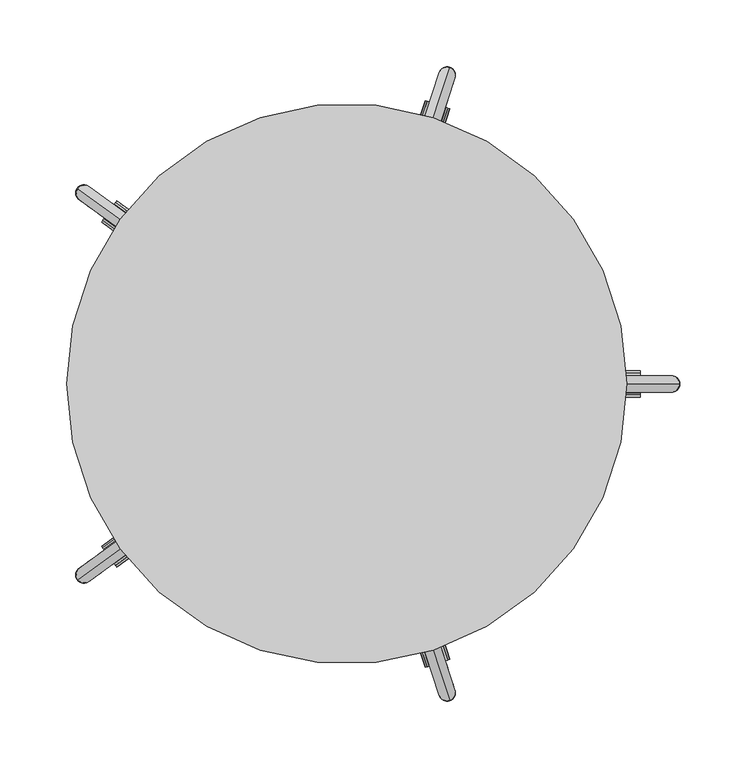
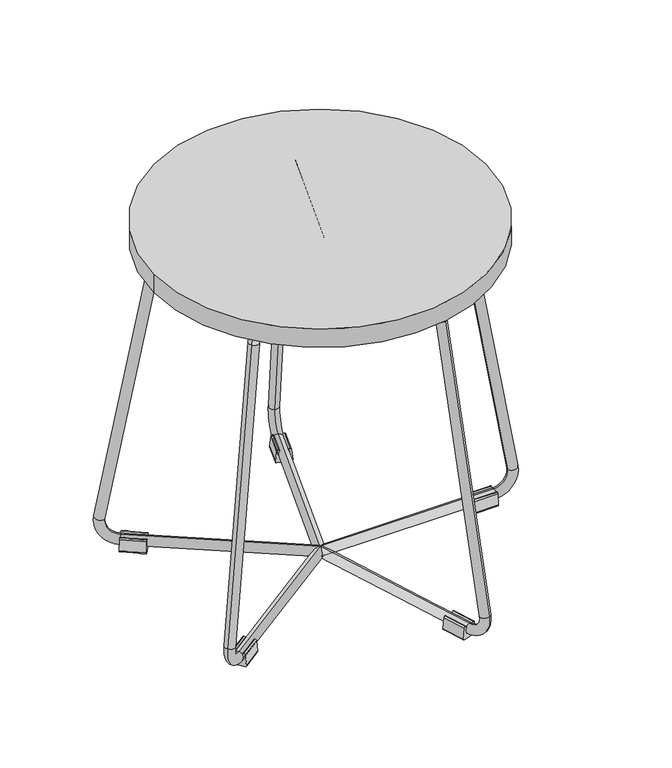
"""IFC4 building model written with IfcOpenShell, lengths in millimetres: furniture geometry, AsteriskR210 : AsteriskR210."""

from ifc_helpers import new_model, si_unit, point, frame, frame_2d, origin, origin_2d, place, context, project, spatial, polyline, circle_curve, ellipse_curve, trimmed, segment, composite_curve, outline, extrude, source, transform, mapped, element, save
from ifc_brep_helpers import plane_surface, cylinder_surface, revolved_surface, advanced_brep


def furniture_d91bc916(model_context):
    return source(origin(), model_context, "Body", "SolidModel", [
        extrude(outline(composite_curve([segment(polyline([(-81.7889391, -91.869927), (-97.218302, -70.6332309), (-81.0379621, -58.8775259), (-65.6085993, -80.114222)]), True, "CONTINUOUS"), segment(trimmed(circle_curve(frame_2d((-73.6987692, -85.9920745)), 10.0), [point((-65.6085993, -80.114222))], [point((-67.8209167, -94.0822444))], False, "CARTESIAN"), True, "CONTINUOUS"), segment(trimmed(circle_curve(frame_2d((-73.6987692, -85.9920745)), 10.0), [point((-67.8209167, -94.0822444))], [point((-81.7889391, -91.869927))], False, "CARTESIAN"), True, "CONTINUOUS")], self_intersect=False), holes=[composite_curve([segment(trimmed(circle_curve(frame_2d((-73.6987692, -85.9920745)), 2.5), [point((-71.6762267, -84.5226114))], [point((-75.7213117, -87.4615376))], True, "CARTESIAN"), True, "CONTINUOUS"), segment(trimmed(circle_curve(frame_2d((-73.6987692, -85.9920745)), 2.5), [point((-75.7213117, -87.4615376))], [point((-71.6762267, -84.5226114))], True, "CARTESIAN"), True, "CONTINUOUS")], self_intersect=False)]), frame((0.0, 0.0, 428.0), z_axis=(0.0, 0.0, 1.0), x_axis=(1.0, 0.0, 0.0)), (0.0, 0.0, 1.0), 2.0),
        extrude(outline(composite_curve([segment(trimmed(circle_curve(frame_2d((0.0, -1.5)), 1.5), [point((0.1752619, -0.0102741))], [point((1.5, -1.5))], False, "CARTESIAN"), True, "CONTINUOUS"), segment(trimmed(circle_curve(frame_2d((-0.121686, -1.5)), 1.621686), [point((1.5, -1.5))], [point((-0.7291803, -3.0036012))], False, "CARTESIAN"), True, "CONTINUOUS"), segment(trimmed(circle_curve(frame_2d((-4.1625955, -8.1661258)), 6.2), [point((-0.7291803, -3.0036012))], [point((-10.3625955, -8.1661258))], True, "CARTESIAN"), True, "CONTINUOUS"), segment(trimmed(circle_curve(frame_2d((-4.1625955, -8.1661258)), 6.2), [point((-10.3625955, -8.1661258))], [point((-0.7291803, -13.3286503))], True, "CARTESIAN"), True, "CONTINUOUS"), segment(trimmed(circle_curve(frame_2d((-0.121686, -14.8322513)), 1.621686), [point((-0.7291803, -13.3286503))], [point((1.5, -14.8322513))], False, "CARTESIAN"), True, "CONTINUOUS"), segment(trimmed(circle_curve(frame_2d((0.0, -14.8322513)), 1.5), [point((1.5, -14.8322513))], [point((0.1752619, -16.3219773))], False, "CARTESIAN"), True, "CONTINUOUS"), segment(polyline([(0.1752619, -16.3219773), (-13.8247381, -17.969036)]), True, "CONTINUOUS"), segment(trimmed(circle_curve(frame_2d((-14.0, -16.4793102)), 1.5), [point((-13.8247381, -17.969036))], [point((-15.5, -16.4793102))], False, "CARTESIAN"), True, "CONTINUOUS"), segment(polyline([(-15.5, -16.4793102), (-15.5, 0.1470588)]), True, "CONTINUOUS"), segment(trimmed(circle_curve(frame_2d((-14.0, 0.1470588)), 1.5), [point((-15.5, 0.1470588))], [point((-13.8247381, 1.6367847))], False, "CARTESIAN"), True, "CONTINUOUS"), segment(polyline([(-13.8247381, 1.6367847), (0.1752619, -0.0102741)]), True, "CONTINUOUS")], self_intersect=False)), frame((-173.3200732, -136.0182906, 15.5), z_axis=(0.809016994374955, 0.5877852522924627, 0.0), x_axis=(0.0, 0.0, 1.0)), (0.0, 0.0, 1.0), 30.0),
        advanced_brep(
        [(0.0005218, 0.0003791, 417.4625955), (0.0005218, 0.0003791, 429.8625955), (-125.9800017, -91.5298289, 417.4625955), (-125.9800017, -91.5298289, 429.8625955), (-149.6971094, -108.7613163, 405.2635865), (-139.8177044, -101.5835084, 403.1103491), (-191.8966377, -139.4210683, 38.0323479), (-201.7760427, -146.5988761, 40.1855853), (-177.9837302, -129.3127493, 5.1374045), (-177.9837302, -129.3127493, 17.5374045), (0.0005218, 0.0003791, 17.5374045), (0.0005218, 0.0003791, 5.1374045)],
        [
            (0, 1, circle_curve(frame((0.0005218, 0.0003791, 423.6625955), z_axis=(0.809016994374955, 0.5877852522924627, 0.0), x_axis=(0.0, 0.0, 1.0)), 6.2)),
            (1, 0, circle_curve(frame((0.0005218, 0.0003791, 423.6625955), z_axis=(0.809016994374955, 0.5877852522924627, 0.0), x_axis=(0.0, 0.0, 1.0)), 6.2)),
            (0, 2),
            (2, 3, circle_curve(frame((-125.9800017, -91.5298289, 423.6625955), z_axis=(0.809016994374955, 0.5877852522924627, 0.0), x_axis=(0.0, 0.0, 1.0)), 6.2)),
            (3, 1),
            (3, 2, circle_curve(frame((-125.9800017, -91.5298289, 423.6625955), z_axis=(0.809016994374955, 0.5877852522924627, 0.0), x_axis=(0.0, 0.0, 1.0)), 6.2)),
            (4, 3, circle_curve(frame((-125.9800017, -91.5298289, 400.0943923), z_axis=(-0.5877852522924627, 0.809016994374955, 0.0), x_axis=(0.0, 0.0, 1.0)), 29.7682033)),
            (2, 5, circle_curve(frame((-125.9800017, -91.5298289, 400.0943923), z_axis=(0.5877852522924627, -0.809016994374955, 0.0), x_axis=(0.0, 0.0, 1.0)), 17.3682033)),
            (5, 4, circle_curve(frame((-144.7574069, -105.1724124, 404.1869678), z_axis=(0.14048432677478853, 0.1020678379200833, 0.984807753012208), x_axis=(-0.7967262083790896, -0.578855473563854, 0.1736481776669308)), 6.2)),
            (4, 5, circle_curve(frame((-144.7574069, -105.1724124, 404.1869678), z_axis=(0.14048432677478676, 0.102067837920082, 0.9848077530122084), x_axis=(-0.7967262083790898, -0.5788554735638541, 0.1736481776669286)), 6.2)),
            (5, 6),
            (6, 7, circle_curve(frame((-196.8363402, -143.0099722, 39.1089666), z_axis=(0.1404843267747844, 0.10206783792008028, 0.9848077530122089), x_axis=(-0.7967262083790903, -0.5788554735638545, 0.17364817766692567)), 6.2)),
            (7, 4),
            (7, 6, circle_curve(frame((-196.8363402, -143.0099722, 39.1089666), z_axis=(0.1404843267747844, 0.10206783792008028, 0.9848077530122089), x_axis=(-0.7967262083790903, -0.5788554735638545, 0.17364817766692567)), 6.2)),
            (8, 7, circle_curve(frame((-177.9837302, -129.3127493, 35.0), z_axis=(-0.5877852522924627, 0.809016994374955, 0.0), x_axis=(-0.7967262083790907, -0.5788554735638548, 0.17364817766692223)), 29.8625955)),
            (6, 9, circle_curve(frame((-177.9837302, -129.3127493, 35.0), z_axis=(0.5877852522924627, -0.809016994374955, 0.0), x_axis=(-0.7967262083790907, -0.5788554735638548, 0.17364817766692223)), 17.4625955)),
            (9, 8, circle_curve(frame((-177.9837302, -129.3127493, 11.3374045), z_axis=(-0.809016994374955, -0.5877852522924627, 0.0), x_axis=(0.0, 0.0, -1.0)), 6.2)),
            (8, 9, circle_curve(frame((-177.9837302, -129.3127493, 11.3374045), z_axis=(-0.809016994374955, -0.5877852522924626, 0.0), x_axis=(0.0, 0.0, -1.0)), 6.2)),
            (10, 11, circle_curve(frame((0.0005218, 0.0003791, 11.3374045), z_axis=(0.809016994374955, 0.5877852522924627, 0.0), x_axis=(0.0, 0.0, -1.0)), 6.2)),
            (11, 10, circle_curve(frame((0.0005218, 0.0003791, 11.3374045), z_axis=(0.809016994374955, 0.5877852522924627, 0.0), x_axis=(0.0, 0.0, -1.0)), 6.2)),
            (9, 10),
            (11, 8),
        ],
        [
            plane_surface(frame((0.0005218, 0.0003791, 430.0), z_axis=(0.809016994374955, 0.5877852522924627, 0.0), x_axis=(-0.5877852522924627, 0.809016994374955, 0.0))),
            cylinder_surface(frame((0.0005218, 0.0003791, 423.6625955), z_axis=(0.809016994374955, 0.5877852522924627, 0.0), x_axis=(0.0, 0.0, 1.0)), 6.2),
            revolved_surface(trimmed(ellipse_curve(frame((-125.9800017, -91.5298289, 423.6625955), z_axis=(0.809016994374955, 0.5877852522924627, 0.0), x_axis=(0.0, 0.0, 1.0)), 6.2, 6.2), [point((-125.9800017, -91.5298289, 417.4625955))], [point((-125.9800017, -91.5298289, 429.8625955))], True, "CARTESIAN"), (-125.9800017, -91.5298289, 400.0943923), (0.5877852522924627, -0.809016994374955, 0.0)),
            revolved_surface(trimmed(ellipse_curve(frame((-125.9800017, -91.5298289, 423.6625955), z_axis=(0.809016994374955, 0.5877852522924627, 0.0), x_axis=(0.0, 0.0, 1.0)), 6.2, 6.2), [point((-125.9800017, -91.5298289, 429.8625955))], [point((-125.9800017, -91.5298289, 417.4625955))], True, "CARTESIAN"), (-125.9800017, -91.5298289, 400.0943923), (0.5877852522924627, -0.809016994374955, 0.0)),
            cylinder_surface(frame((-144.7574069, -105.1724124, 404.1869678), z_axis=(0.1404843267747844, 0.10206783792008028, 0.9848077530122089), x_axis=(-0.7967262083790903, -0.5788554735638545, 0.17364817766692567)), 6.2),
            revolved_surface(trimmed(ellipse_curve(frame((-196.8363402, -143.0099722, 39.1089666), z_axis=(0.1404843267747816, 0.10206783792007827, 0.9848077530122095), x_axis=(-0.7967262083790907, -0.5788554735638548, 0.17364817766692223)), 6.2, 6.2), [point((-191.8966377, -139.4210683, 38.0323479))], [point((-201.7760427, -146.5988761, 40.1855853))], True, "CARTESIAN"), (-177.9837302, -129.3127493, 35.0), (0.5877852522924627, -0.809016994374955, 0.0)),
            revolved_surface(trimmed(ellipse_curve(frame((-196.8363402, -143.0099722, 39.1089666), z_axis=(0.1404843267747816, 0.10206783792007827, 0.9848077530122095), x_axis=(-0.7967262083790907, -0.5788554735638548, 0.17364817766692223)), 6.2, 6.2), [point((-201.7760427, -146.5988761, 40.1855853))], [point((-191.8966377, -139.4210683, 38.0323479))], True, "CARTESIAN"), (-177.9837302, -129.3127493, 35.0), (0.5877852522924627, -0.809016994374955, 0.0)),
            plane_surface(frame((0.0005218, 0.0003791, 5.0), z_axis=(0.809016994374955, 0.5877852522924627, 0.0), x_axis=(-0.5877852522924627, 0.809016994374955, 0.0))),
            cylinder_surface(frame((-177.9837302, -129.3127493, 11.3374045), z_axis=(-0.809016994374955, -0.5877852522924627, 0.0), x_axis=(0.0, 0.0, -1.0)), 6.2),
        ],
        [
            (0, [[1, 2]]),
            (1, [[-1, 3, 4, 5]]),
            (1, [[-2, -5, 6, -3]]),
            (2, [[7, -4, 8, 9]]),
            (3, [[-8, -6, -7, 10]]),
            (4, [[-9, 11, 12, 13]]),
            (4, [[-10, -13, 14, -11]]),
            (5, [[15, -12, 16, 17]]),
            (6, [[-16, -14, -15, 18]]),
            (7, [[19, 20]]),
            (8, [[-17, 21, -20, 22]]),
            (8, [[-18, -22, -19, -21]]),
        ],
    ),
        extrude(outline(composite_curve([segment(polyline([(62.0991985, -106.1748964), (37.1339649, -114.2865925), (30.953625, -95.2654621), (55.9188586, -87.153766)]), True, "CONTINUOUS"), segment(trimmed(circle_curve(frame_2d((59.0090285, -96.6643312)), 10.0), [point((55.9188586, -87.153766))], [point((68.5195937, -93.5741613))], False, "CARTESIAN"), True, "CONTINUOUS"), segment(trimmed(circle_curve(frame_2d((59.0090285, -96.6643312)), 10.0), [point((68.5195937, -93.5741613))], [point((62.0991985, -106.1748964))], False, "CARTESIAN"), True, "CONTINUOUS")], self_intersect=False), holes=[composite_curve([segment(trimmed(circle_curve(frame_2d((59.0090285, -96.6643312)), 2.5), [point((58.236486, -94.2866899))], [point((59.781571, -99.0419725))], True, "CARTESIAN"), True, "CONTINUOUS"), segment(trimmed(circle_curve(frame_2d((59.0090285, -96.6643312)), 2.5), [point((59.781571, -99.0419725))], [point((58.236486, -94.2866899))], True, "CARTESIAN"), True, "CONTINUOUS")], self_intersect=False)]), frame((0.0, 0.0, 428.0), z_axis=(0.0, 0.0, 1.0), x_axis=(1.0, 0.0, 0.0)), (0.0, 0.0, 1.0), 2.0),
        extrude(outline(composite_curve([segment(trimmed(circle_curve(frame_2d((0.0, -1.4999999)), 1.5), [point((0.1752619, -0.0102741))], [point((1.5, -1.4999999))], False, "CARTESIAN"), True, "CONTINUOUS"), segment(trimmed(circle_curve(frame_2d((-0.121686, -1.4999999)), 1.621686), [point((1.5, -1.4999999))], [point((-0.7291803, -3.003601))], False, "CARTESIAN"), True, "CONTINUOUS"), segment(trimmed(circle_curve(frame_2d((-4.1625955, -8.1661256)), 6.2), [point((-0.7291803, -3.003601))], [point((-10.3625955, -8.1661256))], True, "CARTESIAN"), True, "CONTINUOUS"), segment(trimmed(circle_curve(frame_2d((-4.1625955, -8.1661256)), 6.2), [point((-10.3625955, -8.1661256))], [point((-0.7291803, -13.3286502))], True, "CARTESIAN"), True, "CONTINUOUS"), segment(trimmed(circle_curve(frame_2d((-0.121686, -14.8322512)), 1.621686), [point((-0.7291803, -13.3286502))], [point((1.5, -14.8322512))], False, "CARTESIAN"), True, "CONTINUOUS"), segment(trimmed(circle_curve(frame_2d((0.0, -14.8322512)), 1.5), [point((1.5, -14.8322512))], [point((0.1752619, -16.3219771))], False, "CARTESIAN"), True, "CONTINUOUS"), segment(polyline([(0.1752619, -16.3219771), (-13.8247381, -17.9690359)]), True, "CONTINUOUS"), segment(trimmed(circle_curve(frame_2d((-14.0, -16.4793101)), 1.5), [point((-13.8247381, -17.9690359))], [point((-15.5, -16.4793101))], False, "CARTESIAN"), True, "CONTINUOUS"), segment(polyline([(-15.5, -16.4793101), (-15.5, 0.1470589)]), True, "CONTINUOUS"), segment(trimmed(circle_curve(frame_2d((-14.0, 0.1470589)), 1.5), [point((-15.5, 0.1470589))], [point((-13.8247381, 1.6367847))], False, "CARTESIAN"), True, "CONTINUOUS"), segment(polyline([(-13.8247381, 1.6367847), (0.1752619, -0.0102741)]), True, "CONTINUOUS")], self_intersect=False)), frame((75.8021113, -206.8687725, 15.5), z_axis=(-0.3090169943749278, 0.95105651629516, 0.0), x_axis=(0.0, 0.0, 1.0)), (0.0, 0.0, 1.0), 30.0),
        advanced_brep(
        [(-0.0003214, 0.0009893, 417.4625955), (-0.0003214, 0.0009893, 429.8625955), (48.1199566, -148.0979983, 417.4625955), (48.1199566, -148.0979983, 429.8625955), (57.1790856, -175.9791306, 405.2635865), (53.4054887, -164.3651935, 403.1103491), (73.2978711, -225.5876513, 38.0323479), (77.071468, -237.2015884, 40.1855853), (67.9836133, -209.2320476, 5.1374045), (67.9836133, -209.2320476, 17.5374045), (-0.0003214, 0.0009893, 17.5374045), (-0.0003214, 0.0009893, 5.1374045)],
        [
            (0, 1, circle_curve(frame((-0.0003214, 0.0009893, 423.6625955), z_axis=(-0.3090169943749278, 0.95105651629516, 0.0), x_axis=(0.0, 0.0, 1.0)), 6.2)),
            (1, 0, circle_curve(frame((-0.0003214, 0.0009893, 423.6625955), z_axis=(-0.3090169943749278, 0.95105651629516, 0.0), x_axis=(0.0, 0.0, 1.0)), 6.2)),
            (0, 2),
            (2, 3, circle_curve(frame((48.1199566, -148.0979983, 423.6625955), z_axis=(-0.3090169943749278, 0.95105651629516, 0.0), x_axis=(0.0, 0.0, 1.0)), 6.2)),
            (3, 1),
            (3, 2, circle_curve(frame((48.1199566, -148.0979983, 423.6625955), z_axis=(-0.3090169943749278, 0.95105651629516, 0.0), x_axis=(0.0, 0.0, 1.0)), 6.2)),
            (4, 3, circle_curve(frame((48.1199566, -148.0979983, 400.0943923), z_axis=(-0.95105651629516, -0.3090169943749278, 0.0), x_axis=(0.0, 0.0, 1.0)), 29.7682033)),
            (2, 5, circle_curve(frame((48.1199566, -148.0979983, 400.0943923), z_axis=(0.95105651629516, 0.3090169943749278, 0.0), x_axis=(0.0, 0.0, 1.0)), 17.3682033)),
            (5, 4, circle_curve(frame((55.2922872, -170.172162, 404.1869678), z_axis=(-0.05366023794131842, 0.1651492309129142, 0.984807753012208), x_axis=(0.30432233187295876, -0.9366078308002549, 0.1736481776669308)), 6.2)),
            (4, 5, circle_curve(frame((55.2922872, -170.172162, 404.1869678), z_axis=(-0.05366023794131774, 0.16514923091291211, 0.9848077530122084), x_axis=(0.3043223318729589, -0.9366078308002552, 0.1736481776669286)), 6.2)),
            (5, 6),
            (6, 7, circle_curve(frame((75.1846696, -231.3946198, 39.1089666), z_axis=(-0.05366023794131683, 0.1651492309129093, 0.9848077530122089), x_axis=(0.30432233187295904, -0.9366078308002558, 0.17364817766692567)), 6.2)),
            (7, 4),
            (7, 6, circle_curve(frame((75.1846696, -231.3946198, 39.1089666), z_axis=(-0.05366023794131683, 0.1651492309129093, 0.9848077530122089), x_axis=(0.30432233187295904, -0.9366078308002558, 0.17364817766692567)), 6.2)),
            (8, 7, circle_curve(frame((67.9836133, -209.2320476, 35.0), z_axis=(-0.95105651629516, -0.3090169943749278, 0.0), x_axis=(0.3043223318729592, -0.9366078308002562, 0.17364817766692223)), 29.8625955)),
            (6, 9, circle_curve(frame((67.9836133, -209.2320476, 35.0), z_axis=(0.95105651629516, 0.3090169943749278, 0.0), x_axis=(0.3043223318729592, -0.9366078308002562, 0.17364817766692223)), 17.4625955)),
            (9, 8, circle_curve(frame((67.9836133, -209.2320476, 11.3374045), z_axis=(0.3090169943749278, -0.9510565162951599, 0.0), x_axis=(0.0, 0.0, -1.0)), 6.2)),
            (8, 9, circle_curve(frame((67.9836133, -209.2320476, 11.3374045), z_axis=(0.3090169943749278, -0.9510565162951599, 0.0), x_axis=(0.0, 0.0, -1.0)), 6.2)),
            (10, 11, circle_curve(frame((-0.0003214, 0.0009893, 11.3374045), z_axis=(-0.3090169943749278, 0.95105651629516, 0.0), x_axis=(0.0, 0.0, -1.0)), 6.2)),
            (11, 10, circle_curve(frame((-0.0003214, 0.0009893, 11.3374045), z_axis=(-0.3090169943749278, 0.95105651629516, 0.0), x_axis=(0.0, 0.0, -1.0)), 6.2)),
            (9, 10),
            (11, 8),
        ],
        [
            plane_surface(frame((-0.0003214, 0.0009893, 430.0), z_axis=(-0.3090169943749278, 0.95105651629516, 0.0), x_axis=(-0.95105651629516, -0.3090169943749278, 0.0))),
            cylinder_surface(frame((-0.0003214, 0.0009893, 423.6625955), z_axis=(-0.3090169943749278, 0.95105651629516, 0.0), x_axis=(0.0, 0.0, 1.0)), 6.2),
            revolved_surface(trimmed(ellipse_curve(frame((48.1199566, -148.0979983, 423.6625955), z_axis=(-0.3090169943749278, 0.95105651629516, 0.0), x_axis=(0.0, 0.0, 1.0)), 6.2, 6.2), [point((48.1199566, -148.0979983, 417.4625955))], [point((48.1199566, -148.0979983, 429.8625955))], True, "CARTESIAN"), (48.1199566, -148.0979983, 400.0943923), (0.95105651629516, 0.3090169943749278, 0.0)),
            revolved_surface(trimmed(ellipse_curve(frame((48.1199566, -148.0979983, 423.6625955), z_axis=(-0.3090169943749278, 0.95105651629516, 0.0), x_axis=(0.0, 0.0, 1.0)), 6.2, 6.2), [point((48.1199566, -148.0979983, 429.8625955))], [point((48.1199566, -148.0979983, 417.4625955))], True, "CARTESIAN"), (48.1199566, -148.0979983, 400.0943923), (0.95105651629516, 0.3090169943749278, 0.0)),
            cylinder_surface(frame((55.2922872, -170.172162, 404.1869678), z_axis=(-0.05366023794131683, 0.1651492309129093, 0.9848077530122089), x_axis=(0.30432233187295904, -0.9366078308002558, 0.17364817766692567)), 6.2),
            revolved_surface(trimmed(ellipse_curve(frame((75.1846696, -231.3946198, 39.1089666), z_axis=(-0.05366023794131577, 0.16514923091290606, 0.9848077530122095), x_axis=(0.3043223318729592, -0.9366078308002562, 0.17364817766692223)), 6.2, 6.2), [point((73.2978711, -225.5876513, 38.0323479))], [point((77.071468, -237.2015884, 40.1855853))], True, "CARTESIAN"), (67.9836133, -209.2320476, 35.0), (0.95105651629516, 0.3090169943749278, 0.0)),
            revolved_surface(trimmed(ellipse_curve(frame((75.1846696, -231.3946198, 39.1089666), z_axis=(-0.05366023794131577, 0.16514923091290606, 0.9848077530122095), x_axis=(0.3043223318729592, -0.9366078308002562, 0.17364817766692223)), 6.2, 6.2), [point((77.071468, -237.2015884, 40.1855853))], [point((73.2978711, -225.5876513, 38.0323479))], True, "CARTESIAN"), (67.9836133, -209.2320476, 35.0), (0.95105651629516, 0.3090169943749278, 0.0)),
            plane_surface(frame((-0.0003214, 0.0009893, 5.0), z_axis=(-0.3090169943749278, 0.95105651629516, 0.0), x_axis=(-0.95105651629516, -0.3090169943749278, 0.0))),
            cylinder_surface(frame((67.9836133, -209.2320476, 11.3374045), z_axis=(0.3090169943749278, -0.95105651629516, 0.0), x_axis=(0.0, 0.0, -1.0)), 6.2),
        ],
        [
            (0, [[1, 2]]),
            (1, [[-1, 3, 4, 5]]),
            (1, [[-2, -5, 6, -3]]),
            (2, [[7, -4, 8, 9]]),
            (3, [[-8, -6, -7, 10]]),
            (4, [[-9, 11, 12, 13]]),
            (4, [[-10, -13, 14, -11]]),
            (5, [[15, -12, 16, 17]]),
            (6, [[-16, -14, -15, 18]]),
            (7, [[19, 20]]),
            (8, [[-17, 21, -20, 22]]),
            (8, [[-18, -22, -19, -21]]),
        ],
    ),
        extrude(outline(composite_curve([segment(polyline([(-112.6476649, 49.3965348), (-97.218302, 70.6332309), (-81.0379621, 58.8775259), (-96.467325, 37.6408298)]), True, "CONTINUOUS"), segment(trimmed(circle_curve(frame_2d((-104.557495, 43.5186823)), 10.0), [point((-96.467325, 37.6408298))], [point((-110.4353475, 35.4285123))], False, "CARTESIAN"), True, "CONTINUOUS"), segment(trimmed(circle_curve(frame_2d((-104.557495, 43.5186823)), 10.0), [point((-110.4353475, 35.4285123))], [point((-112.6476649, 49.3965348))], False, "CARTESIAN"), True, "CONTINUOUS")], self_intersect=False), holes=[composite_curve([segment(trimmed(circle_curve(frame_2d((-104.557495, 43.5186823)), 2.5), [point((-102.5349525, 42.0492192))], [point((-106.5800374, 44.9881454))], True, "CARTESIAN"), True, "CONTINUOUS"), segment(trimmed(circle_curve(frame_2d((-104.557495, 43.5186823)), 2.5), [point((-106.5800374, 44.9881454))], [point((-102.5349525, 42.0492192))], True, "CARTESIAN"), True, "CONTINUOUS")], self_intersect=False)]), frame((0.0, 0.0, 428.0), z_axis=(0.0, 0.0, 1.0), x_axis=(1.0, 0.0, 0.0)), (0.0, 0.0, 1.0), 2.0),
        extrude(outline(composite_curve([segment(polyline([(-0.1752619, -0.010274), (13.8247381, 1.6367848)]), True, "CONTINUOUS"), segment(trimmed(circle_curve(frame_2d((14.0, 0.1470589)), 1.5), [point((13.8247381, 1.6367848))], [point((15.5, 0.1470589))], False, "CARTESIAN"), True, "CONTINUOUS"), segment(polyline([(15.5, 0.1470589), (15.5, -16.4793101)]), True, "CONTINUOUS"), segment(trimmed(circle_curve(frame_2d((14.0, -16.4793101)), 1.5), [point((15.5, -16.4793101))], [point((13.8247381, -17.969036))], False, "CARTESIAN"), True, "CONTINUOUS"), segment(polyline([(13.8247381, -17.969036), (-0.1752619, -16.3219771)]), True, "CONTINUOUS"), segment(trimmed(circle_curve(frame_2d((0.0, -14.8322512)), 1.5), [point((-0.1752619, -16.3219771))], [point((-1.5, -14.8322512))], False, "CARTESIAN"), True, "CONTINUOUS"), segment(trimmed(circle_curve(frame_2d((0.121686, -14.8322512)), 1.621686), [point((-1.5, -14.8322512))], [point((0.7291803, -13.3286502))], False, "CARTESIAN"), True, "CONTINUOUS"), segment(trimmed(circle_curve(frame_2d((4.1625955, -8.1661256)), 6.2), [point((0.7291803, -13.3286502))], [point((10.3625955, -8.1661256))], True, "CARTESIAN"), True, "CONTINUOUS"), segment(trimmed(circle_curve(frame_2d((4.1625955, -8.1661256)), 6.2), [point((10.3625955, -8.1661256))], [point((0.7291803, -3.0036011))], True, "CARTESIAN"), True, "CONTINUOUS"), segment(trimmed(circle_curve(frame_2d((0.121686, -1.5)), 1.621686), [point((0.7291803, -3.0036011))], [point((-1.5, -1.5))], False, "CARTESIAN"), True, "CONTINUOUS"), segment(trimmed(circle_curve(frame_2d((0.0, -1.5)), 1.5), [point((-1.5, -1.5))], [point((-0.1752619, -0.010274))], False, "CARTESIAN"), True, "CONTINUOUS")], self_intersect=False)), frame((-158.6494198, 105.1716642, 15.5), z_axis=(-0.8090169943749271, 0.587785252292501, 0.0), x_axis=(0.0, 0.0, -1.0)), (0.0, 0.0, 1.0), 30.0),
        advanced_brep(
        [(0.0005218, -0.0003791, 417.4625955), (0.0005218, -0.0003791, 429.8625955), (-125.9800017, 91.5298289, 417.4625955), (-125.9800017, 91.5298289, 429.8625955), (-149.6971094, 108.7613163, 405.2635865), (-139.8177044, 101.5835084, 403.1103491), (-191.8966377, 139.4210683, 38.0323479), (-201.7760427, 146.5988761, 40.1855853), (-177.9837302, 129.3127493, 5.1374045), (-177.9837302, 129.3127493, 17.5374045), (0.0005218, -0.0003791, 17.5374045), (0.0005218, -0.0003791, 5.1374045)],
        [
            (0, 1, circle_curve(frame((0.0005218, -0.0003791, 423.6625955), z_axis=(0.8090169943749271, -0.587785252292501, 0.0), x_axis=(0.0, 0.0, 1.0)), 6.2)),
            (1, 0, circle_curve(frame((0.0005218, -0.0003791, 423.6625955), z_axis=(0.8090169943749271, -0.587785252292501, 0.0), x_axis=(0.0, 0.0, 1.0)), 6.2)),
            (0, 2),
            (2, 3, circle_curve(frame((-125.9800017, 91.5298289, 423.6625955), z_axis=(0.8090169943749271, -0.587785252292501, 0.0), x_axis=(0.0, 0.0, 1.0)), 6.2)),
            (3, 1),
            (3, 2, circle_curve(frame((-125.9800017, 91.5298289, 423.6625955), z_axis=(0.8090169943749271, -0.587785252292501, 0.0), x_axis=(0.0, 0.0, 1.0)), 6.2)),
            (4, 3, circle_curve(frame((-125.9800017, 91.5298289, 400.0943923), z_axis=(0.587785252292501, 0.8090169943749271, 0.0), x_axis=(0.0, 0.0, 1.0)), 29.7682033)),
            (2, 5, circle_curve(frame((-125.9800017, 91.5298289, 400.0943923), z_axis=(-0.587785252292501, -0.8090169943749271, 0.0), x_axis=(0.0, 0.0, 1.0)), 17.3682033)),
            (5, 4, circle_curve(frame((-144.7574069, 105.1724124, 404.1869678), z_axis=(0.1404843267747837, -0.10206783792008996, 0.984807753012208), x_axis=(-0.7967262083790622, 0.5788554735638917, 0.1736481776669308)), 6.2)),
            (4, 5, circle_curve(frame((-144.7574069, 105.1724124, 404.1869678), z_axis=(0.14048432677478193, -0.10206783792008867, 0.9848077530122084), x_axis=(-0.7967262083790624, 0.5788554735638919, 0.1736481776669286)), 6.2)),
            (5, 6),
            (6, 7, circle_curve(frame((-196.8363402, 143.0099722, 39.1089666), z_axis=(0.14048432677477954, -0.10206783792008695, 0.9848077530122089), x_axis=(-0.7967262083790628, 0.5788554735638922, 0.17364817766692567)), 6.2)),
            (7, 4),
            (7, 6, circle_curve(frame((-196.8363402, 143.0099722, 39.1089666), z_axis=(0.14048432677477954, -0.10206783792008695, 0.9848077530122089), x_axis=(-0.7967262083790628, 0.5788554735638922, 0.17364817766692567)), 6.2)),
            (8, 7, circle_curve(frame((-177.9837302, 129.3127493, 35.0), z_axis=(0.587785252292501, 0.8090169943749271, 0.0), x_axis=(-0.7967262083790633, 0.5788554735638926, 0.17364817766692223)), 29.8625955)),
            (6, 9, circle_curve(frame((-177.9837302, 129.3127493, 35.0), z_axis=(-0.587785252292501, -0.8090169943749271, 0.0), x_axis=(-0.7967262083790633, 0.5788554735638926, 0.17364817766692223)), 17.4625955)),
            (9, 8, circle_curve(frame((-177.9837302, 129.3127493, 11.3374045), z_axis=(-0.8090169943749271, 0.587785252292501, 0.0), x_axis=(0.0, 0.0, -1.0)), 6.2)),
            (8, 9, circle_curve(frame((-177.9837302, 129.3127493, 11.3374045), z_axis=(-0.809016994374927, 0.587785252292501, 0.0), x_axis=(0.0, 0.0, -1.0)), 6.2)),
            (10, 11, circle_curve(frame((0.0005218, -0.0003791, 11.3374045), z_axis=(0.8090169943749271, -0.587785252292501, 0.0), x_axis=(0.0, 0.0, -1.0)), 6.2)),
            (11, 10, circle_curve(frame((0.0005218, -0.0003791, 11.3374045), z_axis=(0.8090169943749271, -0.587785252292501, 0.0), x_axis=(0.0, 0.0, -1.0)), 6.2)),
            (9, 10),
            (11, 8),
        ],
        [
            plane_surface(frame((0.0005218, -0.0003791, 430.0), z_axis=(0.8090169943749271, -0.587785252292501, 0.0), x_axis=(0.587785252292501, 0.8090169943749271, 0.0))),
            cylinder_surface(frame((0.0005218, -0.0003791, 423.6625955), z_axis=(0.8090169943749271, -0.587785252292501, 0.0), x_axis=(0.0, 0.0, 1.0)), 6.2),
            revolved_surface(trimmed(ellipse_curve(frame((-125.9800017, 91.5298289, 423.6625955), z_axis=(0.8090169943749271, -0.587785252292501, 0.0), x_axis=(0.0, 0.0, 1.0)), 6.2, 6.2), [point((-125.9800017, 91.5298289, 417.4625955))], [point((-125.9800017, 91.5298289, 429.8625955))], True, "CARTESIAN"), (-125.9800017, 91.5298289, 400.0943923), (-0.587785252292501, -0.8090169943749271, 0.0)),
            revolved_surface(trimmed(ellipse_curve(frame((-125.9800017, 91.5298289, 423.6625955), z_axis=(0.8090169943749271, -0.587785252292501, 0.0), x_axis=(0.0, 0.0, 1.0)), 6.2, 6.2), [point((-125.9800017, 91.5298289, 429.8625955))], [point((-125.9800017, 91.5298289, 417.4625955))], True, "CARTESIAN"), (-125.9800017, 91.5298289, 400.0943923), (-0.587785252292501, -0.8090169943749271, 0.0)),
            cylinder_surface(frame((-144.7574069, 105.1724124, 404.1869678), z_axis=(0.14048432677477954, -0.10206783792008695, 0.9848077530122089), x_axis=(-0.7967262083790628, 0.5788554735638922, 0.17364817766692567)), 6.2),
            revolved_surface(trimmed(ellipse_curve(frame((-196.8363402, 143.0099722, 39.1089666), z_axis=(0.14048432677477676, -0.10206783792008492, 0.9848077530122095), x_axis=(-0.7967262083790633, 0.5788554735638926, 0.17364817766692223)), 6.2, 6.2), [point((-191.8966377, 139.4210683, 38.0323479))], [point((-201.7760427, 146.5988761, 40.1855853))], True, "CARTESIAN"), (-177.9837302, 129.3127493, 35.0), (-0.587785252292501, -0.8090169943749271, 0.0)),
            revolved_surface(trimmed(ellipse_curve(frame((-196.8363402, 143.0099722, 39.1089666), z_axis=(0.14048432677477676, -0.10206783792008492, 0.9848077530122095), x_axis=(-0.7967262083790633, 0.5788554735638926, 0.17364817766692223)), 6.2, 6.2), [point((-201.7760427, 146.5988761, 40.1855853))], [point((-191.8966377, 139.4210683, 38.0323479))], True, "CARTESIAN"), (-177.9837302, 129.3127493, 35.0), (-0.587785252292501, -0.8090169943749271, 0.0)),
            plane_surface(frame((0.0005218, -0.0003791, 5.0), z_axis=(0.8090169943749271, -0.587785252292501, 0.0), x_axis=(0.587785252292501, 0.8090169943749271, 0.0))),
            cylinder_surface(frame((-177.9837302, 129.3127493, 11.3374045), z_axis=(-0.8090169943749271, 0.587785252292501, 0.0), x_axis=(0.0, 0.0, -1.0)), 6.2),
        ],
        [
            (0, [[1, 2]]),
            (1, [[-1, 3, 4, 5]]),
            (1, [[-2, -5, 6, -3]]),
            (2, [[7, -4, 8, 9]]),
            (3, [[-8, -6, -7, 10]]),
            (4, [[-9, 11, 12, 13]]),
            (4, [[-10, -13, 14, -11]]),
            (5, [[15, -12, 16, 17]]),
            (6, [[-16, -14, -15, 18]]),
            (7, [[19, 20]]),
            (8, [[-17, 21, -20, 22]]),
            (8, [[-18, -22, -19, -21]]),
        ],
    ),
        extrude(outline(composite_curve([segment(polyline([(12.1687314, 122.3982886), (37.1339649, 114.2865925), (30.953625, 95.2654621), (5.9883915, 103.3771582)]), True, "CONTINUOUS"), segment(trimmed(circle_curve(frame_2d((9.0785614, 112.8877234)), 10.0), [point((5.9883915, 103.3771582))], [point((-0.4320038, 115.9778934))], False, "CARTESIAN"), True, "CONTINUOUS"), segment(trimmed(circle_curve(frame_2d((9.0785614, 112.8877234)), 10.0), [point((-0.4320038, 115.9778934))], [point((12.1687314, 122.3982886))], False, "CARTESIAN"), True, "CONTINUOUS")], self_intersect=False), holes=[composite_curve([segment(trimmed(circle_curve(frame_2d((9.0785614, 112.8877234)), 2.5), [point((8.3060189, 110.5100821))], [point((9.8511039, 115.2653647))], True, "CARTESIAN"), True, "CONTINUOUS"), segment(trimmed(circle_curve(frame_2d((9.0785614, 112.8877234)), 2.5), [point((9.8511039, 115.2653647))], [point((8.3060189, 110.5100821))], True, "CARTESIAN"), True, "CONTINUOUS")], self_intersect=False)]), frame((0.0, 0.0, 428.0), z_axis=(0.0, 0.0, 1.0), x_axis=(1.0, 0.0, 0.0)), (0.0, 0.0, 1.0), 2.0),
        extrude(outline(composite_curve([segment(polyline([(-0.1752619, -0.0102742), (13.8247381, 1.6367847)]), True, "CONTINUOUS"), segment(trimmed(circle_curve(frame_2d((14.0, 0.1470588)), 1.5), [point((13.8247381, 1.6367847))], [point((15.5, 0.1470588))], False, "CARTESIAN"), True, "CONTINUOUS"), segment(polyline([(15.5, 0.1470588), (15.5, -16.4793102)]), True, "CONTINUOUS"), segment(trimmed(circle_curve(frame_2d((14.0, -16.4793102)), 1.5), [point((15.5, -16.4793102))], [point((13.8247381, -17.969036))], False, "CARTESIAN"), True, "CONTINUOUS"), segment(polyline([(13.8247381, -17.969036), (-0.1752619, -16.3219772)]), True, "CONTINUOUS"), segment(trimmed(circle_curve(frame_2d((0.0, -14.8322512)), 1.5), [point((-0.1752619, -16.3219772))], [point((-1.5, -14.8322512))], False, "CARTESIAN"), True, "CONTINUOUS"), segment(trimmed(circle_curve(frame_2d((0.121686, -14.8322512)), 1.621686), [point((-1.5, -14.8322512))], [point((0.7291803, -13.3286502))], False, "CARTESIAN"), True, "CONTINUOUS"), segment(trimmed(circle_curve(frame_2d((4.1625955, -8.1661256)), 6.2), [point((0.7291803, -13.3286502))], [point((10.3625955, -8.1661256))], True, "CARTESIAN"), True, "CONTINUOUS"), segment(trimmed(circle_curve(frame_2d((4.1625955, -8.1661256)), 6.2), [point((10.3625955, -8.1661256))], [point((0.7291803, -3.0036011))], True, "CARTESIAN"), True, "CONTINUOUS"), segment(trimmed(circle_curve(frame_2d((0.121686, -1.5)), 1.621686), [point((0.7291803, -3.0036011))], [point((-1.5, -1.5))], False, "CARTESIAN"), True, "CONTINUOUS"), segment(trimmed(circle_curve(frame_2d((0.0, -1.5)), 1.5), [point((-1.5, -1.5))], [point((-0.1752619, -0.0102742))], False, "CARTESIAN"), True, "CONTINUOUS")], self_intersect=False)), frame((50.9987075, 183.3840202, 15.5), z_axis=(0.30901699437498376, 0.9510565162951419, 0.0), x_axis=(0.0, 0.0, -1.0)), (0.0, 0.0, 1.0), 30.0),
        advanced_brep(
        [(-0.0003214, -0.0009893, 417.4625955), (-0.0003214, -0.0009893, 429.8625955), (48.1199566, 148.0979983, 417.4625955), (48.1199566, 148.0979983, 429.8625955), (57.1790856, 175.9791306, 405.2635865), (53.4054887, 164.3651935, 403.1103491), (73.2978711, 225.5876513, 38.0323479), (77.071468, 237.2015884, 40.1855853), (67.9836133, 209.2320476, 5.1374045), (67.9836133, 209.2320476, 17.5374045), (-0.0003214, -0.0009893, 17.5374045), (-0.0003214, -0.0009893, 5.1374045)],
        [
            (0, 1, circle_curve(frame((-0.0003214, -0.0009893, 423.6625955), z_axis=(-0.30901699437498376, -0.9510565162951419, 0.0), x_axis=(0.0, 0.0, 1.0)), 6.2)),
            (1, 0, circle_curve(frame((-0.0003214, -0.0009893, 423.6625955), z_axis=(-0.30901699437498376, -0.9510565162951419, 0.0), x_axis=(0.0, 0.0, 1.0)), 6.2)),
            (0, 2),
            (2, 3, circle_curve(frame((48.1199566, 148.0979983, 423.6625955), z_axis=(-0.30901699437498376, -0.9510565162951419, 0.0), x_axis=(0.0, 0.0, 1.0)), 6.2)),
            (3, 1),
            (3, 2, circle_curve(frame((48.1199566, 148.0979983, 423.6625955), z_axis=(-0.30901699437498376, -0.9510565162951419, 0.0), x_axis=(0.0, 0.0, 1.0)), 6.2)),
            (4, 3, circle_curve(frame((48.1199566, 148.0979983, 400.0943923), z_axis=(0.9510565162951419, -0.30901699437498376, 0.0), x_axis=(0.0, 0.0, 1.0)), 29.7682033)),
            (2, 5, circle_curve(frame((48.1199566, 148.0979983, 400.0943923), z_axis=(-0.9510565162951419, 0.30901699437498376, 0.0), x_axis=(0.0, 0.0, 1.0)), 17.3682033)),
            (5, 4, circle_curve(frame((55.2922872, 170.172162, 404.1869678), z_axis=(-0.05366023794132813, -0.16514923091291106, 0.984807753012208), x_axis=(0.3043223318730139, 0.936607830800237, 0.1736481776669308)), 6.2)),
            (4, 5, circle_curve(frame((55.2922872, 170.172162, 404.1869678), z_axis=(-0.05366023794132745, -0.16514923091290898, 0.9848077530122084), x_axis=(0.304322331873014, 0.9366078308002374, 0.1736481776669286)), 6.2)),
            (5, 6),
            (6, 7, circle_curve(frame((75.1846696, 231.3946198, 39.1089666), z_axis=(-0.05366023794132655, -0.16514923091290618, 0.9848077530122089), x_axis=(0.30432233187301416, 0.9366078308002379, 0.17364817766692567)), 6.2)),
            (7, 4),
            (7, 6, circle_curve(frame((75.1846696, 231.3946198, 39.1089666), z_axis=(-0.05366023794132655, -0.16514923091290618, 0.9848077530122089), x_axis=(0.30432233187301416, 0.9366078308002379, 0.17364817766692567)), 6.2)),
            (8, 7, circle_curve(frame((67.9836133, 209.2320476, 35.0), z_axis=(0.9510565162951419, -0.30901699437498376, 0.0), x_axis=(0.30432233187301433, 0.9366078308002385, 0.17364817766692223)), 29.8625955)),
            (6, 9, circle_curve(frame((67.9836133, 209.2320476, 35.0), z_axis=(-0.9510565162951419, 0.30901699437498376, 0.0), x_axis=(0.30432233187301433, 0.9366078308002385, 0.17364817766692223)), 17.4625955)),
            (9, 8, circle_curve(frame((67.9836133, 209.2320476, 11.3374045), z_axis=(0.30901699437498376, 0.9510565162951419, 0.0), x_axis=(0.0, 0.0, -1.0)), 6.2)),
            (8, 9, circle_curve(frame((67.9836133, 209.2320476, 11.3374045), z_axis=(0.30901699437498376, 0.9510565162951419, 0.0), x_axis=(0.0, 0.0, -1.0)), 6.2)),
            (10, 11, circle_curve(frame((-0.0003214, -0.0009893, 11.3374045), z_axis=(-0.30901699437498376, -0.9510565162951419, 0.0), x_axis=(0.0, 0.0, -1.0)), 6.2)),
            (11, 10, circle_curve(frame((-0.0003214, -0.0009893, 11.3374045), z_axis=(-0.30901699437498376, -0.9510565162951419, 0.0), x_axis=(0.0, 0.0, -1.0)), 6.2)),
            (9, 10),
            (11, 8),
        ],
        [
            plane_surface(frame((-0.0003214, -0.0009893, 430.0), z_axis=(-0.30901699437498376, -0.9510565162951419, 0.0), x_axis=(0.9510565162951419, -0.30901699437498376, 0.0))),
            cylinder_surface(frame((-0.0003214, -0.0009893, 423.6625955), z_axis=(-0.30901699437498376, -0.9510565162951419, 0.0), x_axis=(0.0, 0.0, 1.0)), 6.2),
            revolved_surface(trimmed(ellipse_curve(frame((48.1199566, 148.0979983, 423.6625955), z_axis=(-0.30901699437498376, -0.9510565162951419, 0.0), x_axis=(0.0, 0.0, 1.0)), 6.2, 6.2), [point((48.1199566, 148.0979983, 417.4625955))], [point((48.1199566, 148.0979983, 429.8625955))], True, "CARTESIAN"), (48.1199566, 148.0979983, 400.0943923), (-0.9510565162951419, 0.30901699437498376, 0.0)),
            revolved_surface(trimmed(ellipse_curve(frame((48.1199566, 148.0979983, 423.6625955), z_axis=(-0.30901699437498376, -0.9510565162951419, 0.0), x_axis=(0.0, 0.0, 1.0)), 6.2, 6.2), [point((48.1199566, 148.0979983, 429.8625955))], [point((48.1199566, 148.0979983, 417.4625955))], True, "CARTESIAN"), (48.1199566, 148.0979983, 400.0943923), (-0.9510565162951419, 0.30901699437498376, 0.0)),
            cylinder_surface(frame((55.2922872, 170.172162, 404.1869678), z_axis=(-0.05366023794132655, -0.16514923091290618, 0.9848077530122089), x_axis=(0.30432233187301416, 0.9366078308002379, 0.17364817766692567)), 6.2),
            revolved_surface(trimmed(ellipse_curve(frame((75.1846696, 231.3946198, 39.1089666), z_axis=(-0.05366023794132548, -0.1651492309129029, 0.9848077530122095), x_axis=(0.30432233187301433, 0.9366078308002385, 0.17364817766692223)), 6.2, 6.2), [point((73.2978711, 225.5876513, 38.0323479))], [point((77.071468, 237.2015884, 40.1855853))], True, "CARTESIAN"), (67.9836133, 209.2320476, 35.0), (-0.9510565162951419, 0.30901699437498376, 0.0)),
            revolved_surface(trimmed(ellipse_curve(frame((75.1846696, 231.3946198, 39.1089666), z_axis=(-0.05366023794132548, -0.1651492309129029, 0.9848077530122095), x_axis=(0.30432233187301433, 0.9366078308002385, 0.17364817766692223)), 6.2, 6.2), [point((77.071468, 237.2015884, 40.1855853))], [point((73.2978711, 225.5876513, 38.0323479))], True, "CARTESIAN"), (67.9836133, 209.2320476, 35.0), (-0.9510565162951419, 0.30901699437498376, 0.0)),
            plane_surface(frame((-0.0003214, -0.0009893, 5.0), z_axis=(-0.30901699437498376, -0.9510565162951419, 0.0), x_axis=(0.9510565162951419, -0.30901699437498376, 0.0))),
            cylinder_surface(frame((67.9836133, 209.2320476, 11.3374045), z_axis=(0.30901699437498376, 0.9510565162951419, 0.0), x_axis=(0.0, 0.0, -1.0)), 6.2),
        ],
        [
            (0, [[1, 2]]),
            (1, [[-1, 3, 4, 5]]),
            (1, [[-2, -5, 6, -3]]),
            (2, [[7, -4, 8, 9]]),
            (3, [[-8, -6, -7, 10]]),
            (4, [[-9, 11, 12, 13]]),
            (4, [[-10, -13, 14, -11]]),
            (5, [[15, -12, 16, 17]]),
            (6, [[-16, -14, -15, 18]]),
            (7, [[19, 20]]),
            (8, [[-17, 21, -20, 22]]),
            (8, [[-18, -22, -19, -21]]),
        ],
    ),
        extrude(outline(composite_curve([segment(polyline([(120.1677904, 26.25), (120.1677904, 0.0), (100.1677904, 0.0), (100.1677904, 26.25)]), True, "CONTINUOUS"), segment(trimmed(circle_curve(frame_2d((110.1677904, 26.25)), 10.0), [point((100.1677904, 26.25))], [point((110.1677904, 36.25))], False, "CARTESIAN"), True, "CONTINUOUS"), segment(trimmed(circle_curve(frame_2d((110.1677904, 26.25)), 10.0), [point((110.1677904, 36.25))], [point((120.1677904, 26.25))], False, "CARTESIAN"), True, "CONTINUOUS")], self_intersect=False), holes=[composite_curve([segment(trimmed(circle_curve(frame_2d((110.1677904, 26.25)), 2.5), [point((107.6677904, 26.25))], [point((112.6677904, 26.25))], True, "CARTESIAN"), True, "CONTINUOUS"), segment(trimmed(circle_curve(frame_2d((110.1677904, 26.25)), 2.5), [point((112.6677904, 26.25))], [point((107.6677904, 26.25))], True, "CARTESIAN"), True, "CONTINUOUS")], self_intersect=False)]), frame((0.0, 0.0, 428.0), z_axis=(0.0, 0.0, 1.0), x_axis=(1.0, 0.0, 0.0)), (0.0, 0.0, 1.0), 2.0),
        extrude(outline(composite_curve([segment(polyline([(8.1558515, 15.6752619), (9.8029104, 1.6752619)]), True, "CONTINUOUS"), segment(trimmed(circle_curve(frame_2d((8.3131845, 1.5)), 1.5), [point((9.8029104, 1.6752619))], [point((8.3131845, 0.0))], False, "CARTESIAN"), True, "CONTINUOUS"), segment(polyline([(8.3131845, 0.0), (-8.3131845, 0.0)]), True, "CONTINUOUS"), segment(trimmed(circle_curve(frame_2d((-8.3131845, 1.5)), 1.5), [point((-8.3131845, 0.0))], [point((-9.8029104, 1.6752619))], False, "CARTESIAN"), True, "CONTINUOUS"), segment(polyline([(-9.8029104, 1.6752619), (-8.1558515, 15.6752619)]), True, "CONTINUOUS"), segment(trimmed(circle_curve(frame_2d((-6.6661256, 15.5)), 1.5), [point((-8.1558515, 15.6752619))], [point((-6.6661256, 17.0))], False, "CARTESIAN"), True, "CONTINUOUS"), segment(trimmed(circle_curve(frame_2d((-6.6661256, 15.378314)), 1.621686), [point((-6.6661256, 17.0))], [point((-5.1625246, 14.7708197))], False, "CARTESIAN"), True, "CONTINUOUS"), segment(trimmed(circle_curve(frame_2d((0.0, 11.3374045)), 6.2), [point((-5.1625246, 14.7708197))], [point((0.0, 5.1374045))], True, "CARTESIAN"), True, "CONTINUOUS"), segment(trimmed(circle_curve(frame_2d((0.0, 11.3374045)), 6.2), [point((0.0, 5.1374045))], [point((5.1625246, 14.7708197))], True, "CARTESIAN"), True, "CONTINUOUS"), segment(trimmed(circle_curve(frame_2d((6.6661256, 15.378314)), 1.621686), [point((5.1625246, 14.7708197))], [point((6.6661256, 17.0))], False, "CARTESIAN"), True, "CONTINUOUS"), segment(trimmed(circle_curve(frame_2d((6.6661256, 15.5)), 1.5), [point((6.6661256, 17.0))], [point((8.1558515, 15.6752619))], False, "CARTESIAN"), True, "CONTINUOUS")], self_intersect=False)), frame((190.1677904, 0.0, 0.0), z_axis=(1.0, 0.0, 0.0), x_axis=(0.0, 1.0, 0.0)), (0.0, 0.0, 1.0), 30.0),
        advanced_brep(
        [(-0.0012845, 0.0, 417.4625955), (-0.0012845, 0.0, 429.8625955), (155.7192064, 0.0, 417.4625955), (155.7192064, 0.0, 429.8625955), (185.0351638, 0.0, 405.2635865), (172.8235476, 0.0, 403.1103491), (237.1966493, 0.0, 38.0323479), (249.4082655, 0.0, 40.1855853), (219.9993499, 0.0, 5.1374045), (219.9993499, 0.0, 17.5374045), (-0.0012845, 0.0, 17.5374045), (-0.0012845, 0.0, 5.1374045)],
        [
            (0, 1, circle_curve(frame((-0.0012845, 0.0, 423.6625955), z_axis=(-1.0, 0.0, 0.0), x_axis=(0.0, 0.0, 1.0)), 6.2)),
            (1, 0, circle_curve(frame((-0.0012845, 0.0, 423.6625955), z_axis=(-1.0, 0.0, 0.0), x_axis=(0.0, 0.0, 1.0)), 6.2)),
            (0, 2),
            (2, 3, circle_curve(frame((155.7192064, 0.0, 423.6625955), z_axis=(-1.0, 0.0, 0.0), x_axis=(0.0, 0.0, 1.0)), 6.2)),
            (3, 1),
            (3, 2, circle_curve(frame((155.7192064, 0.0, 423.6625955), z_axis=(-1.0, 0.0, 0.0), x_axis=(0.0, 0.0, 1.0)), 6.2)),
            (4, 3, circle_curve(frame((155.7192064, 0.0, 400.0943923), z_axis=(0.0, -1.0, 0.0), x_axis=(0.0, 0.0, 1.0)), 29.7682033)),
            (2, 5, circle_curve(frame((155.7192064, 0.0, 400.0943923), z_axis=(0.0, 1.0, 0.0), x_axis=(0.0, 0.0, 1.0)), 17.3682033)),
            (5, 4, circle_curve(frame((178.9293557, 0.0, 404.1869678), z_axis=(-0.1736481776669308, 0.0, 0.984807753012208), x_axis=(0.984807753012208, 0.0, 0.1736481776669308)), 6.2)),
            (4, 5, circle_curve(frame((178.9293557, 0.0, 404.1869678), z_axis=(-0.1736481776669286, 0.0, 0.9848077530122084), x_axis=(0.9848077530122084, 0.0, 0.1736481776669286)), 6.2)),
            (5, 6),
            (6, 7, circle_curve(frame((243.3024574, 0.0, 39.1089666), z_axis=(-0.17364817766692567, 0.0, 0.9848077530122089), x_axis=(0.9848077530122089, 0.0, 0.17364817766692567)), 6.2)),
            (7, 4),
            (7, 6, circle_curve(frame((243.3024574, 0.0, 39.1089666), z_axis=(-0.17364817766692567, 0.0, 0.9848077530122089), x_axis=(0.9848077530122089, 0.0, 0.17364817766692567)), 6.2)),
            (8, 7, circle_curve(frame((219.9993499, 0.0, 35.0), z_axis=(0.0, -1.0, 0.0), x_axis=(0.9848077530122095, 0.0, 0.17364817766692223)), 29.8625955)),
            (6, 9, circle_curve(frame((219.9993499, 0.0, 35.0), z_axis=(0.0, 1.0, 0.0), x_axis=(0.9848077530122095, 0.0, 0.17364817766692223)), 17.4625955)),
            (9, 8, circle_curve(frame((219.9993499, 0.0, 11.3374045), z_axis=(1.0, 0.0, 0.0), x_axis=(0.0, 0.0, -1.0)), 6.2)),
            (8, 9, circle_curve(frame((219.9993499, 0.0, 11.3374045), z_axis=(1.0, 0.0, 0.0), x_axis=(0.0, 0.0, -1.0)), 6.2)),
            (10, 11, circle_curve(frame((-0.0012845, 0.0, 11.3374045), z_axis=(-1.0, 0.0, 0.0), x_axis=(0.0, 0.0, -1.0)), 6.2)),
            (11, 10, circle_curve(frame((-0.0012845, 0.0, 11.3374045), z_axis=(-1.0, 0.0, 0.0), x_axis=(0.0, 0.0, -1.0)), 6.2)),
            (9, 10),
            (11, 8),
        ],
        [
            plane_surface(frame((-0.0012845, 0.0, 430.0), z_axis=(-1.0, 0.0, 0.0), x_axis=(0.0, -1.0, 0.0))),
            cylinder_surface(frame((-0.0012845, 0.0, 423.6625955), z_axis=(-1.0, 0.0, 0.0), x_axis=(0.0, 0.0, 1.0)), 6.2),
            revolved_surface(trimmed(ellipse_curve(frame((155.7192064, 0.0, 423.6625955), z_axis=(-1.0, 0.0, 0.0), x_axis=(0.0, 0.0, 1.0)), 6.2, 6.2), [point((155.7192064, 0.0, 417.4625955))], [point((155.7192064, 0.0, 429.8625955))], True, "CARTESIAN"), (155.7192064, 0.0, 400.0943923), (0.0, 1.0, 0.0)),
            revolved_surface(trimmed(ellipse_curve(frame((155.7192064, 0.0, 423.6625955), z_axis=(-1.0, 0.0, 0.0), x_axis=(0.0, 0.0, 1.0)), 6.2, 6.2), [point((155.7192064, 0.0, 429.8625955))], [point((155.7192064, 0.0, 417.4625955))], True, "CARTESIAN"), (155.7192064, 0.0, 400.0943923), (0.0, 1.0, 0.0)),
            cylinder_surface(frame((178.9293557, 0.0, 404.1869678), z_axis=(-0.17364817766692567, 0.0, 0.9848077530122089), x_axis=(0.9848077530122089, 0.0, 0.17364817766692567)), 6.2),
            revolved_surface(trimmed(ellipse_curve(frame((243.3024574, 0.0, 39.1089666), z_axis=(-0.17364817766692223, 0.0, 0.9848077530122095), x_axis=(0.9848077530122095, 0.0, 0.17364817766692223)), 6.2, 6.2), [point((237.1966493, 0.0, 38.0323479))], [point((249.4082655, 0.0, 40.1855853))], True, "CARTESIAN"), (219.9993499, 0.0, 35.0), (0.0, 1.0, 0.0)),
            revolved_surface(trimmed(ellipse_curve(frame((243.3024574, 0.0, 39.1089666), z_axis=(-0.17364817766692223, 0.0, 0.9848077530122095), x_axis=(0.9848077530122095, 0.0, 0.17364817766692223)), 6.2, 6.2), [point((249.4082655, 0.0, 40.1855853))], [point((237.1966493, 0.0, 38.0323479))], True, "CARTESIAN"), (219.9993499, 0.0, 35.0), (0.0, 1.0, 0.0)),
            plane_surface(frame((-0.0012845, 0.0, 5.0), z_axis=(-1.0, 0.0, 0.0), x_axis=(0.0, -1.0, 0.0))),
            cylinder_surface(frame((219.9993499, 0.0, 11.3374045), z_axis=(1.0, 0.0, 0.0), x_axis=(0.0, 0.0, -1.0)), 6.2),
        ],
        [
            (0, [[1, 2]]),
            (1, [[-1, 3, 4, 5]]),
            (1, [[-2, -5, 6, -3]]),
            (2, [[7, -4, 8, 9]]),
            (3, [[-8, -6, -7, 10]]),
            (4, [[-9, 11, 12, 13]]),
            (4, [[-10, -13, 14, -11]]),
            (5, [[15, -12, 16, 17]]),
            (6, [[-16, -14, -15, 18]]),
            (7, [[19, 20]]),
            (8, [[-17, 21, -20, 22]]),
            (8, [[-18, -22, -19, -21]]),
        ],
    ),
        extrude(outline(composite_curve([segment(trimmed(circle_curve(origin_2d(), 210.0), [point((-210.0, 0.0))], [point((210.0, 0.0))], False, "CARTESIAN"), True, "CONTINUOUS"), segment(trimmed(circle_curve(origin_2d(), 210.0), [point((210.0, 0.0))], [point((-210.0, 0.0))], False, "CARTESIAN"), True, "CONTINUOUS")], self_intersect=False)), frame((0.0, 0.0, 430.0), z_axis=(0.0, 0.0, 1.0), x_axis=(1.0, 0.0, 0.0)), (0.0, 0.0, 1.0), 25.0),
    ])


if __name__ == "__main__":
    model = new_model("IFC4")
    model_context = context("Model", 3, world=origin())
    ifc_project = project(units=[si_unit("LENGTHUNIT", "METRE", prefix="MILLI")], contexts=[model_context])
    site = spatial("IfcSite", under=ifc_project)
    building = spatial("IfcBuilding", under=site)
    placement = place(None, origin())
    furniture_shape = furniture_d91bc916(model_context)
    element("IfcFurniture", 1, ObjectType="AsteriskR210 : AsteriskR210", at=placement, inside=building, context=model_context, shape_type="MappedRepresentation", body=[
        mapped(furniture_shape, transform((0.0, 0.0, 0.0), x_axis=(1.0, 0.0, 0.0), y_axis=(0.0, 1.0, 0.0), z_axis=(0.0, 0.0, 1.0))),
    ])
    save(model, "model.ifc")
